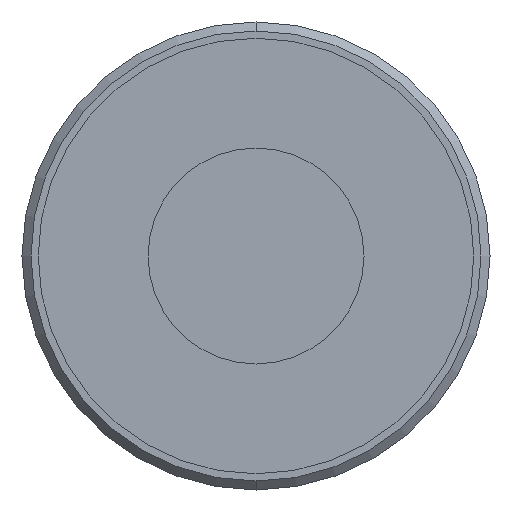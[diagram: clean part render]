
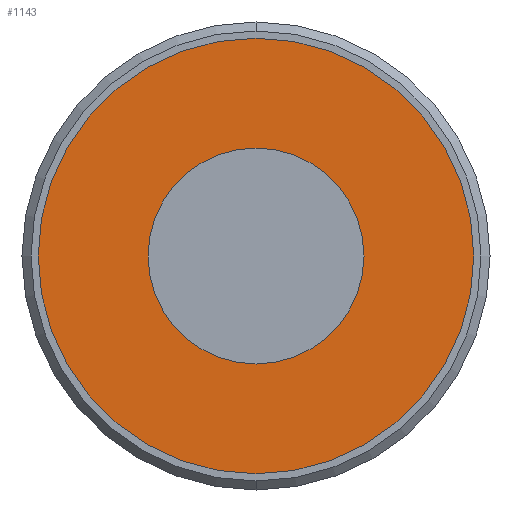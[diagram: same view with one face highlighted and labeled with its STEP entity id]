
A CAD part, front view. The second image highlights one B-rep face of the part: STEP entity #1143.
In plain terms, the highlighted planar face has unit normal (0, -1, 0).
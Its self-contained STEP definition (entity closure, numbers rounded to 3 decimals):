
#8 = AXIS2_PLACEMENT_3D ( 'NONE', #48, #1107, #541 ) ;
#11 = VERTEX_POINT ( 'NONE', #1434 ) ;
#24 = DIRECTION ( 'NONE',  ( 0., 0., 1. ) ) ;
#48 = CARTESIAN_POINT ( 'NONE',  ( 0., 0., 0. ) ) ;
#133 = EDGE_CURVE ( 'NONE', #833, #280, #1385, .T. ) ;
#152 = PLANE ( 'NONE',  #1422 ) ;
#178 = VERTEX_POINT ( 'NONE', #584 ) ;
#260 = ORIENTED_EDGE ( 'NONE', *, *, #1654, .F. ) ;
#280 = VERTEX_POINT ( 'NONE', #347 ) ;
#344 = DIRECTION ( 'NONE',  ( 0., -1., 0. ) ) ;
#347 = CARTESIAN_POINT ( 'NONE',  ( 0., 0., -12.1 ) ) ;
#389 = AXIS2_PLACEMENT_3D ( 'NONE', #1137, #344, #1650 ) ;
#462 = ORIENTED_EDGE ( 'NONE', *, *, #133, .F. ) ;
#481 = DIRECTION ( 'NONE',  ( 0., 1., 0. ) ) ;
#488 = ORIENTED_EDGE ( 'NONE', *, *, #1180, .F. ) ;
#541 = DIRECTION ( 'NONE',  ( 0., 0., 1. ) ) ;
#584 = CARTESIAN_POINT ( 'NONE',  ( 0., 0., 6. ) ) ;
#616 = DIRECTION ( 'NONE',  ( 0., 0., 1. ) ) ;
#649 = AXIS2_PLACEMENT_3D ( 'NONE', #1281, #481, #616 ) ;
#668 = DIRECTION ( 'NONE',  ( 0., -1., 0. ) ) ;
#672 = AXIS2_PLACEMENT_3D ( 'NONE', #1456, #668, #24 ) ;
#833 = VERTEX_POINT ( 'NONE', #1258 ) ;
#994 = EDGE_LOOP ( 'NONE', ( #488, #1124 ) ) ;
#1072 = EDGE_LOOP ( 'NONE', ( #260, #462 ) ) ;
#1107 = DIRECTION ( 'NONE',  ( 0., 1., 0. ) ) ;
#1124 = ORIENTED_EDGE ( 'NONE', *, *, #1596, .F. ) ;
#1137 = CARTESIAN_POINT ( 'NONE',  ( 0., 0., 0. ) ) ;
#1143 = ADVANCED_FACE ( 'NONE', ( #1297, #1186 ), #152, .F. ) ;
#1180 = EDGE_CURVE ( 'NONE', #178, #11, #1204, .T. ) ;
#1186 = FACE_OUTER_BOUND ( 'NONE', #1072, .T. ) ;
#1204 = CIRCLE ( 'NONE', #389, 6. ) ;
#1242 = DIRECTION ( 'NONE',  ( 0., 1., 0. ) ) ;
#1258 = CARTESIAN_POINT ( 'NONE',  ( 0., 0., 12.1 ) ) ;
#1281 = CARTESIAN_POINT ( 'NONE',  ( 0., 0., 0. ) ) ;
#1297 = FACE_BOUND ( 'NONE', #994, .T. ) ;
#1361 = CIRCLE ( 'NONE', #672, 6. ) ;
#1368 = CARTESIAN_POINT ( 'NONE',  ( 0., 0., 0. ) ) ;
#1385 = CIRCLE ( 'NONE', #8, 12.1 ) ;
#1422 = AXIS2_PLACEMENT_3D ( 'NONE', #1368, #1242, #1491 ) ;
#1434 = CARTESIAN_POINT ( 'NONE',  ( 0., 0., -6. ) ) ;
#1456 = CARTESIAN_POINT ( 'NONE',  ( 0., 0., 0. ) ) ;
#1491 = DIRECTION ( 'NONE',  ( 0., 0., 1. ) ) ;
#1596 = EDGE_CURVE ( 'NONE', #11, #178, #1361, .T. ) ;
#1650 = DIRECTION ( 'NONE',  ( 0., 0., 1. ) ) ;
#1654 = EDGE_CURVE ( 'NONE', #280, #833, #1659, .T. ) ;
#1659 = CIRCLE ( 'NONE', #649, 12.1 ) ;
